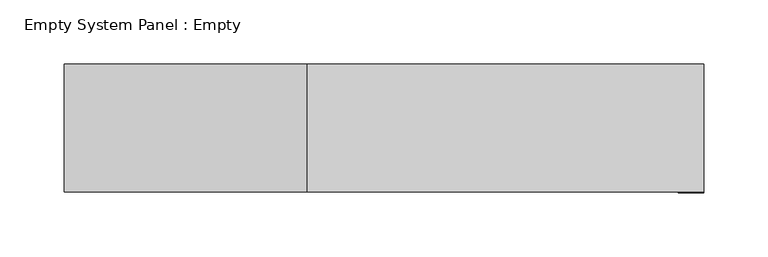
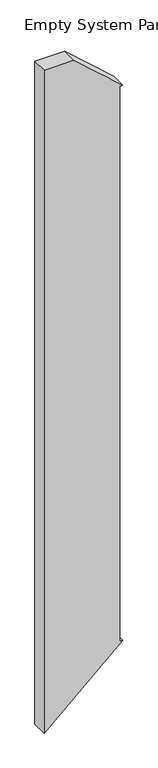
"""IFC4 building model written with IfcOpenShell, lengths in millimetres: plate geometry, Empty System Panel : Empty."""

from ifc_helpers import new_model, si_unit, frame, origin, place, context, project, spatial, polyline, outline, extrude, source, transform, mapped, element, save


def empty_system_panel_empty_9611f496(model_context):
    return source(origin(), model_context, "Body", "SweptSolid", [
        extrude(outline(polyline([(0.0, -249.7473037), (446.8059677, 249.7473037), (446.8059677, 229.7473037), (4164.3762852, 229.7473037), (4164.3762852, 249.7473037), (4441.4905162, -60.0450313), (4441.4905162, -249.7473037), (0.0, -249.7473037)])), frame((0.0, -50.0, 0.0), z_axis=(0.0, 1.0, 0.0), x_axis=(0.0, 0.0, 1.0)), (0.0, 0.0, 1.0), 100.0),
    ])


if __name__ == "__main__":
    model = new_model("IFC4")
    model_context = context("Model", 3, world=origin())
    ifc_project = project(units=[si_unit("LENGTHUNIT", "METRE", prefix="MILLI")], contexts=[model_context])
    site = spatial("IfcSite", under=ifc_project)
    building = spatial("IfcBuilding", under=site)
    placement = place(None, origin())
    empty_system_panel_empty_shape = empty_system_panel_empty_9611f496(model_context)
    element("IfcPlate", 1, ObjectType="Empty System Panel : Empty", at=placement, inside=building, context=model_context, shape_type="MappedRepresentation", body=[
        mapped(empty_system_panel_empty_shape, transform((0.0, 0.0, 0.0), x_axis=(1.0, 0.0, 0.0), y_axis=(0.0, 1.0, 0.0), z_axis=(0.0, 0.0, 1.0))),
    ])
    save(model, "model.ifc")
